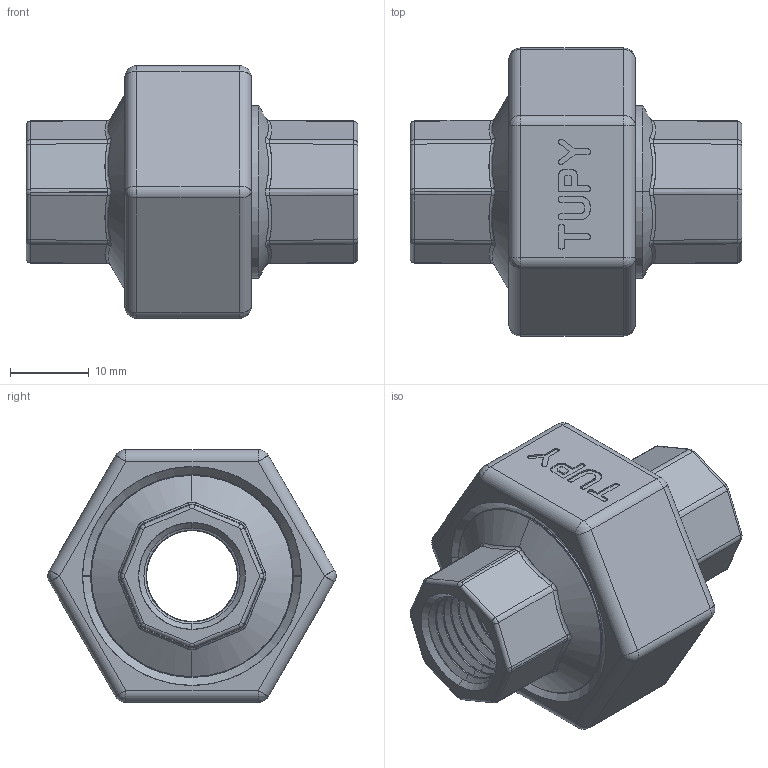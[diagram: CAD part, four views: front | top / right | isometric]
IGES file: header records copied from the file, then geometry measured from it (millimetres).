
Start section: SolidWorks IGES file using analytic representation for surfaces
Global section: file name: C:\Users\Joel Rosa\Desktop\Tubulação\12-63-X\12-63-002.IGS; native system: SolidWorks 2011; preprocessor: SolidWorks 2011; author: Joel Rosa; date: 130721.150539; units: millimetre
Bounding box: 42 x 36.49 x 32 mm (x, y, z)
Surface area: 11315.5 mm2 (no closed solid volume)
Topology: 0 solids, 0 shells, 503 faces, 3392 edges, 3384 vertices
Faces by surface type: bspline 308, revolution 195
